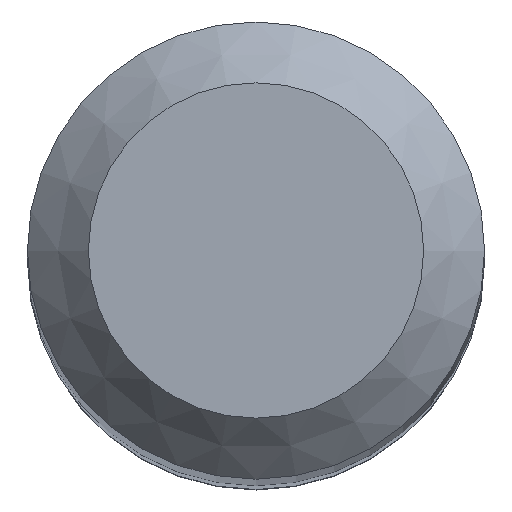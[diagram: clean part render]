
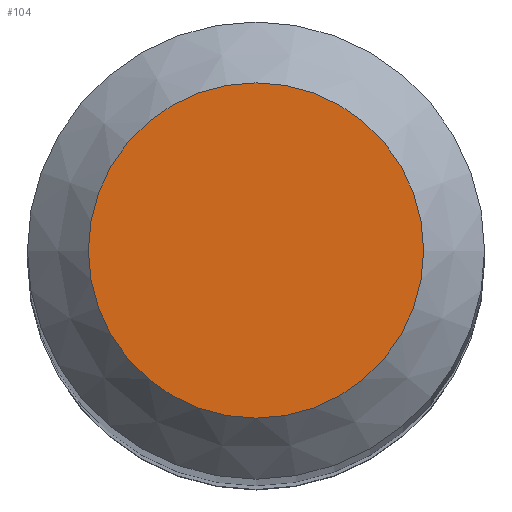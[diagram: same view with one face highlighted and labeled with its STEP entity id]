
A CAD part, top view. The second image highlights one B-rep face of the part: STEP entity #104.
In plain terms, the highlighted planar face has unit normal (0, 0, 1).
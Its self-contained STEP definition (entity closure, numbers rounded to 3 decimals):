
#88=CARTESIAN_POINT('',(2.2,0.0,85.0));
#89=DIRECTION('',(0.0,0.0,1.0));
#90=DIRECTION('',(1.0,0.0,0.0));
#91=AXIS2_PLACEMENT_3D('',#88,#89,#90);
#92=PLANE('',#91);
#93=CARTESIAN_POINT('',(-2.2,0.0,85.0));
#94=VERTEX_POINT('',#93);
#95=CARTESIAN_POINT('',(0.0,0.0,85.0));
#96=DIRECTION('',(0.0,0.0,-1.0));
#97=DIRECTION('',(-1.0,0.0,0.0));
#98=AXIS2_PLACEMENT_3D('',#95,#96,#97);
#99=CIRCLE('',#98,2.2);
#100=EDGE_CURVE('',#94,#94,#99,.T.);
#101=ORIENTED_EDGE('',*,*,#100,.F.);
#102=EDGE_LOOP('',(#101));
#103=FACE_OUTER_BOUND('',#102,.T.);
#104=ADVANCED_FACE('',(#103),#92,.T.);
